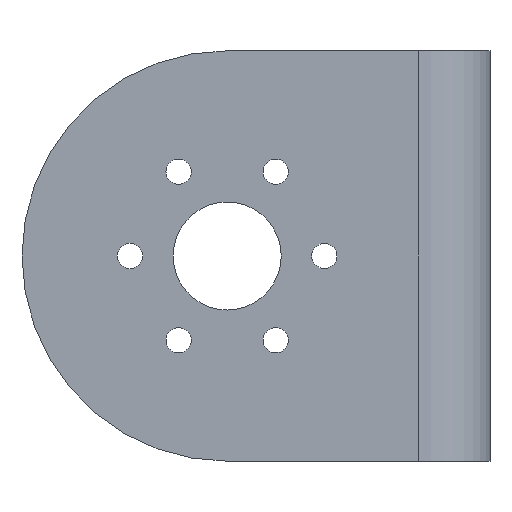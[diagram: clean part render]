
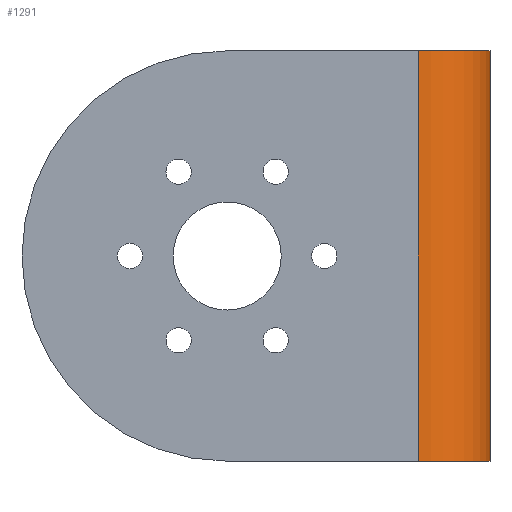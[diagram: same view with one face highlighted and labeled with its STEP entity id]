
A CAD part, front view. The second image highlights one B-rep face of the part: STEP entity #1291.
In plain terms, the highlighted cylindrical face has radius 10 mm (diameter 20 mm), a partial arc.
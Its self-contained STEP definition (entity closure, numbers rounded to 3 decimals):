
#42 = EDGE_CURVE ( 'NONE', #555, #1665, #1433, .T. ) ;
#107 = VERTEX_POINT ( 'NONE', #1575 ) ;
#117 = CARTESIAN_POINT ( 'NONE',  ( 26.5, 10., 28.5 ) ) ;
#243 = EDGE_CURVE ( 'NONE', #107, #414, #1348, .T. ) ;
#271 = DIRECTION ( 'NONE',  ( 0., 0., 1. ) ) ;
#280 = CARTESIAN_POINT ( 'NONE',  ( 26.5, 0., -28.5 ) ) ;
#288 = CARTESIAN_POINT ( 'NONE',  ( 26.5, 0., 28.5 ) ) ;
#334 = CYLINDRICAL_SURFACE ( 'NONE', #974, 10. ) ;
#414 = VERTEX_POINT ( 'NONE', #1383 ) ;
#415 = EDGE_CURVE ( 'NONE', #414, #555, #498, .T. ) ;
#459 = EDGE_LOOP ( 'NONE', ( #1520, #1437, #932, #1654 ) ) ;
#460 = DIRECTION ( 'NONE',  ( -1., 0., 0. ) ) ;
#498 = CIRCLE ( 'NONE', #1460, 10. ) ;
#517 = CIRCLE ( 'NONE', #1698, 10. ) ;
#555 = VERTEX_POINT ( 'NONE', #280 ) ;
#609 = CARTESIAN_POINT ( 'NONE',  ( 26.5, 10., -28.5 ) ) ;
#630 = DIRECTION ( 'NONE',  ( -1., 0., 0. ) ) ;
#721 = DIRECTION ( 'NONE',  ( 0., 0., -1. ) ) ;
#724 = EDGE_CURVE ( 'NONE', #1665, #107, #517, .T. ) ;
#747 = DIRECTION ( 'NONE',  ( -1., 0., 0. ) ) ;
#761 = DIRECTION ( 'NONE',  ( 0., 0., 1. ) ) ;
#821 = DIRECTION ( 'NONE',  ( 0., 0., -1. ) ) ;
#932 = ORIENTED_EDGE ( 'NONE', *, *, #724, .F. ) ;
#974 = AXIS2_PLACEMENT_3D ( 'NONE', #1392, #1409, #747 ) ;
#1094 = CARTESIAN_POINT ( 'NONE',  ( 36.5, 10., -28.5 ) ) ;
#1194 = CARTESIAN_POINT ( 'NONE',  ( 26.5, 0., 28.5 ) ) ;
#1212 = VECTOR ( 'NONE', #271, 1000. ) ;
#1291 = ADVANCED_FACE ( 'NONE', ( #1682 ), #334, .T. ) ;
#1348 = LINE ( 'NONE', #1094, #1530 ) ;
#1383 = CARTESIAN_POINT ( 'NONE',  ( 36.5, 10., -28.5 ) ) ;
#1392 = CARTESIAN_POINT ( 'NONE',  ( 26.5, 10., 0. ) ) ;
#1409 = DIRECTION ( 'NONE',  ( 0., 0., -1. ) ) ;
#1433 = LINE ( 'NONE', #1194, #1212 ) ;
#1437 = ORIENTED_EDGE ( 'NONE', *, *, #243, .F. ) ;
#1460 = AXIS2_PLACEMENT_3D ( 'NONE', #609, #721, #460 ) ;
#1520 = ORIENTED_EDGE ( 'NONE', *, *, #415, .F. ) ;
#1530 = VECTOR ( 'NONE', #821, 1000. ) ;
#1575 = CARTESIAN_POINT ( 'NONE',  ( 36.5, 10., 28.5 ) ) ;
#1654 = ORIENTED_EDGE ( 'NONE', *, *, #42, .F. ) ;
#1665 = VERTEX_POINT ( 'NONE', #288 ) ;
#1682 = FACE_OUTER_BOUND ( 'NONE', #459, .T. ) ;
#1698 = AXIS2_PLACEMENT_3D ( 'NONE', #117, #761, #630 ) ;
